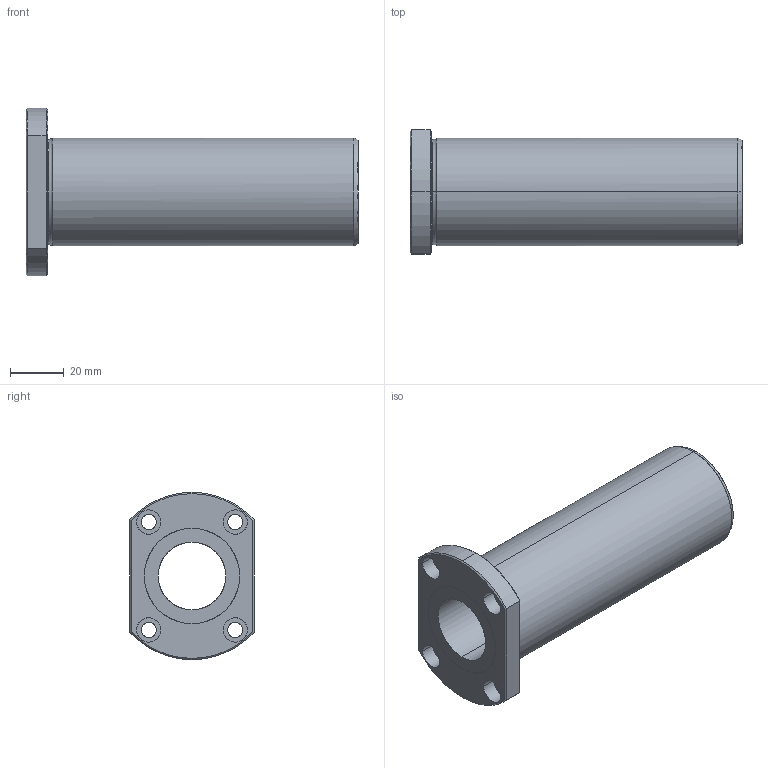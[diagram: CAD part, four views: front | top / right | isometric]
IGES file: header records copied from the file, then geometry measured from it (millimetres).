
Global section: file name: No Iges File Name specified; native system: AutoDesk Inventor R10; preprocessor: AutoDesk Inventor Iges Exporter R10; author: No Author specified; organization: No Organization specified; date: 20101216.154621; units: millimetre
Bounding box: 123 x 46 x 62 mm (x, y, z)
Surface area: 30235.9 mm2 (no closed solid volume)
Topology: 0 solids, 0 shells, 57 faces, 360 edges, 360 vertices
Faces by surface type: bspline 57
